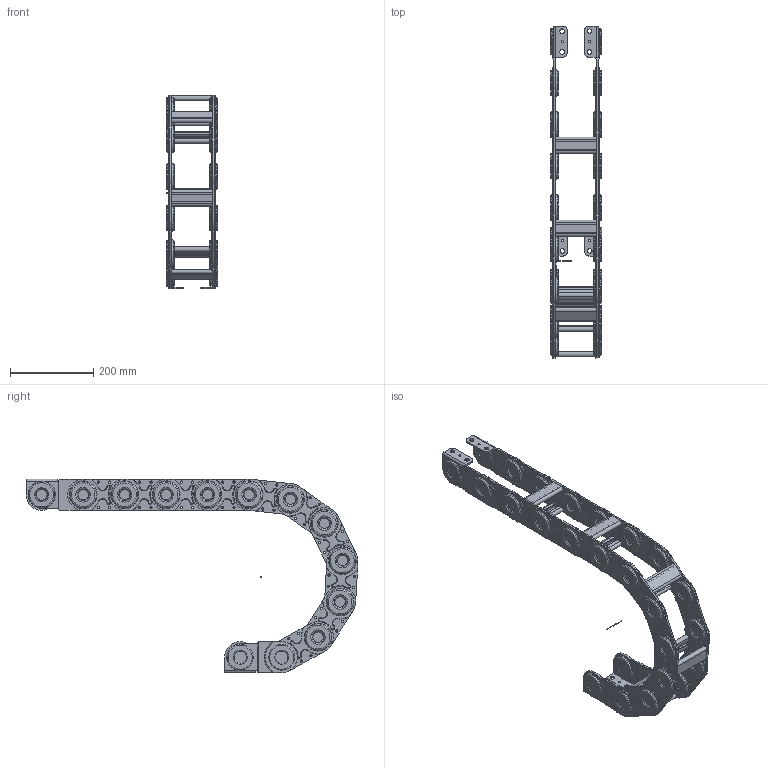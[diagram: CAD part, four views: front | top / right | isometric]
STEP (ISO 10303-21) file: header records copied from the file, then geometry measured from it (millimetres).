
FILE_DESCRIPTION((''),'2;1');
FILE_NAME('C:\Uebbing\TRACE PARTS\SLE\SLE 320\SLE 320 vereinfacht PARAMETRISCH.stp','2013-05-13T13:07:36',('Uebbing'),(''),'Autodesk Inventor 10','Autodesk Inventor 10','');
FILE_SCHEMA(('AUTOMOTIVE_DESIGN { 1 0 10303 214 1 1 1 1 }'));
Length unit declared in the file: millimetre
Products named in the file (6): SLE 320 vereinfacht PARAMETRISCH; Achse; SLE 320 Glied vereinfacht; SLE 320 Anschluss N einfach vereinfacht; SLE 320 Anschluss N doppelt vereinfacht; SLE 320 Glied ohne Steg vereinfacht
Assembly tree (13 placements, depth 2):
  SLE 320 vereinfacht PARAMETRISCH
    Achse
    SLE 320 Glied vereinfacht  x5
    SLE 320 Anschluss N einfach vereinfacht
    SLE 320 Anschluss N doppelt vereinfacht
    SLE 320 Glied ohne Steg vereinfacht  x5
Bounding box: 123.2 x 799.46 x 466.58 mm (x, y, z)
Volume: 2139948.8 mm3; surface area: 1060429.3 mm2
Topology: 22 solids, 22 shells, 1969 faces, 4776 edges, 3001 vertices
Faces by surface type: cylinder 799, plane 594, torus 468, bspline 108
Full cylindrical faces by diameter (mm): 1 x1, 4.2 x20, 5.2 x4, 5.3 x80, 11 x8, 20.05 x2, 20.06 x4, 20.1 x20, 20.2 x4, 30 x8, 62 x8
Entity records: 19509 total; most frequent: CARTESIAN_POINT 4860, DIRECTION 3228, ORIENTED_EDGE 2704, EDGE_CURVE 1352, AXIS2_PLACEMENT_3D 1308, VERTEX_POINT 932, EDGE_LOOP 880, CIRCLE 660
